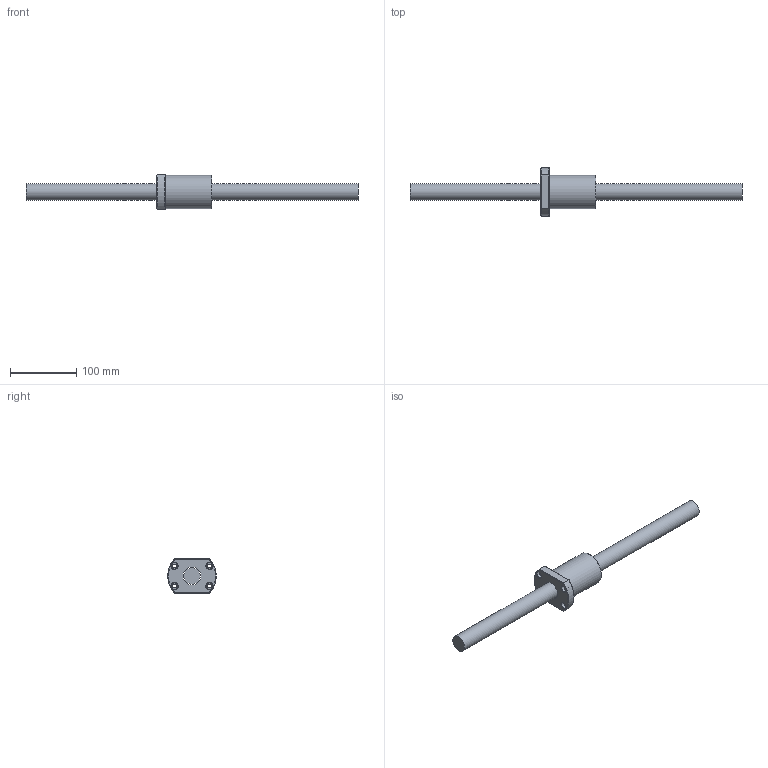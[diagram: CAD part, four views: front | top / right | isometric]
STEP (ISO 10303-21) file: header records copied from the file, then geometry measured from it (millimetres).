
FILE_DESCRIPTION (( 'STEP AP203' ), '1' );
FILE_NAME ('SFV02525D-1.8.step', '2024-05-20T03:38:35', ( '' ), ( '' ), 'SwSTEP 2.0', 'SolidWorks 2022', '' );
FILE_SCHEMA (( 'CONFIG_CONTROL_DESIGN' ));
Length unit declared in the file: millimetre
Products named in the file (1): SFV02525D-1.8
Bounding box: 500 x 73 x 52 mm (x, y, z)
Volume: 376710.8 mm3; surface area: 67936.1 mm2
Topology: 2 solids, 2 shells, 58 faces, 148 edges, 96 vertices
Faces by surface type: cylinder 21, plane 16, cone 9, bspline 7, torus 5
Full cylindrical faces by diameter (mm): 4 x1, 5.5 x4, 7 x6, 9.5 x4, 25 x1, 27.1 x1, 50 x1
Entity records: 3848 total; most frequent: CARTESIAN_POINT 2745, DIRECTION 196, ORIENTED_EDGE 188, EDGE_CURVE 94, AXIS2_PLACEMENT_3D 91, EDGE_LOOP 89, VERTEX_POINT 73, FACE_OUTER_BOUND 66
